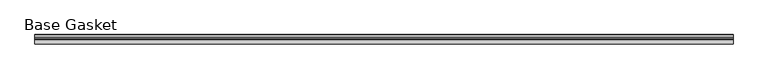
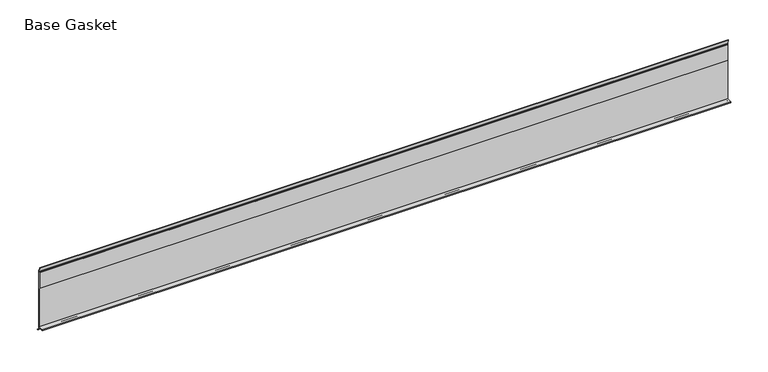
"""IFC4 building model written with IfcOpenShell, lengths in millimetres: furniture geometry, Gasket-Teknion-FHGB-AI_Healthcare-R2021 : Base Gasket."""

from ifc_helpers import new_model, si_unit, frame, origin, place, context, project, spatial, polyline, outline, extrude, source, transform, mapped, element, save


def base_gasket_58afd4fc(model_context):
    return source(origin(), model_context, "Body", "SweptSolid", [
        extrude(outline(polyline([(3.7283812, 98.4568417), (3.7283812, 4.3498477), (7.4222115, 0.6560174), (7.8482342, 0.0), (6.8281054, 0.3520979), (2.2043812, 4.3498477), (2.1334222, 6.3818476), (-6.2405171, 6.3818476), (-6.2405171, 7.9398773), (2.2043812, 7.9398773), (2.2043812, 71.4693447), (1.4106313, 71.4693447), (1.4106313, 96.8693477), (2.2043812, 96.8693477), (2.2043812, 98.4568417), (0.6755308, 104.4162708), (0.6755308, 105.2002997), (1.1891543, 104.587663), (3.7283812, 98.4568417)])), frame((-1527.8982117, 0.0, 0.0), z_axis=(1.0, 0.0, 0.0), x_axis=(0.0, 1.0, 0.0)), (0.0, 0.0, 1.0), 1066.8),
    ])


if __name__ == "__main__":
    model = new_model("IFC4")
    model_context = context("Model", 3, world=origin())
    ifc_project = project(units=[si_unit("LENGTHUNIT", "METRE", prefix="MILLI")], contexts=[model_context])
    site = spatial("IfcSite", under=ifc_project)
    building = spatial("IfcBuilding", under=site)
    placement = place(None, origin())
    base_gasket_shape = base_gasket_58afd4fc(model_context)
    element("IfcFurniture", 1, ObjectType="Gasket-Teknion-FHGB-AI_Healthcare-R2021 : Base Gasket", at=placement, inside=building, context=model_context, shape_type="MappedRepresentation", body=[
        mapped(base_gasket_shape, transform((0.0, 0.0, 0.0), x_axis=(1.0, 0.0, 0.0), y_axis=(0.0, 1.0, 0.0), z_axis=(0.0, 0.0, 1.0))),
    ])
    save(model, "model.ifc")
